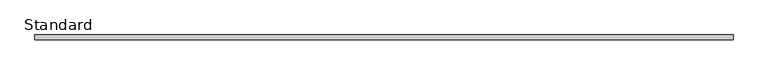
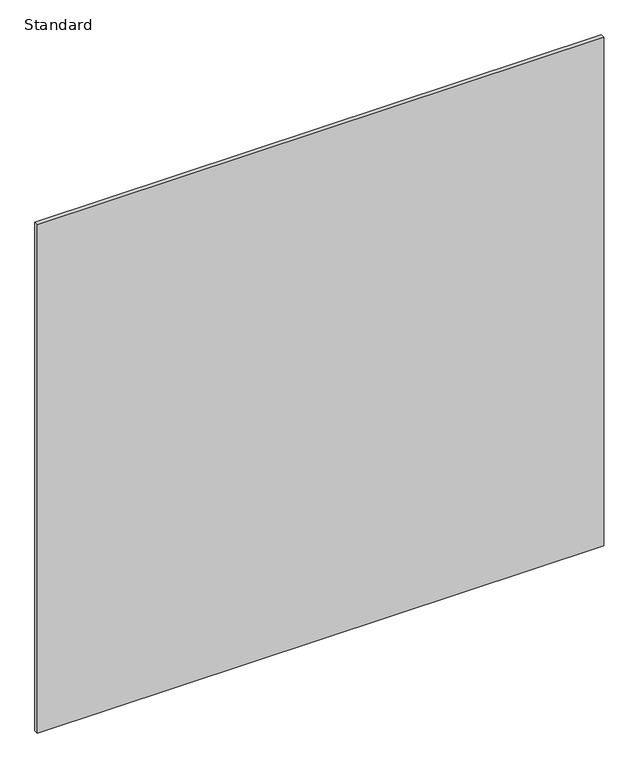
"""IFC4 building model written with IfcOpenShell, lengths in millimetres: furniture geometry, X_Partition-Compact Laminate-Duracube-Rectangular : Standard."""

from ifc_helpers import new_model, si_unit, frame, origin, place, context, project, spatial, polyline, outline, extrude, source, transform, mapped, element, save


def standard_17157e73(model_context):
    return source(origin(), model_context, "Body", "SweptSolid", [
        extrude(outline(polyline([(940.7003264, 0.0), (940.7003264, -13.0), (-851.2996736, -13.0), (-851.2996736, 0.0), (940.7003264, 0.0)])), frame((0.0, 0.0, 200.0), z_axis=(0.0, 0.0, 1.0), x_axis=(1.0, 0.0, 0.0)), (0.0, 0.0, 1.0), 1700.0),
    ])


if __name__ == "__main__":
    model = new_model("IFC4")
    model_context = context("Model", 3, world=origin())
    ifc_project = project(units=[si_unit("LENGTHUNIT", "METRE", prefix="MILLI")], contexts=[model_context])
    site = spatial("IfcSite", under=ifc_project)
    building = spatial("IfcBuilding", under=site)
    placement = place(None, origin())
    standard_shape = standard_17157e73(model_context)
    element("IfcFurniture", 1, ObjectType="X_Partition-Compact Laminate-Duracube-Rectangular : Standard", at=placement, inside=building, context=model_context, shape_type="MappedRepresentation", body=[
        mapped(standard_shape, transform((0.0, 0.0, 0.0), x_axis=(1.0, 0.0, 0.0), y_axis=(0.0, 1.0, 0.0), z_axis=(0.0, 0.0, 1.0))),
    ])
    save(model, "model.ifc")
